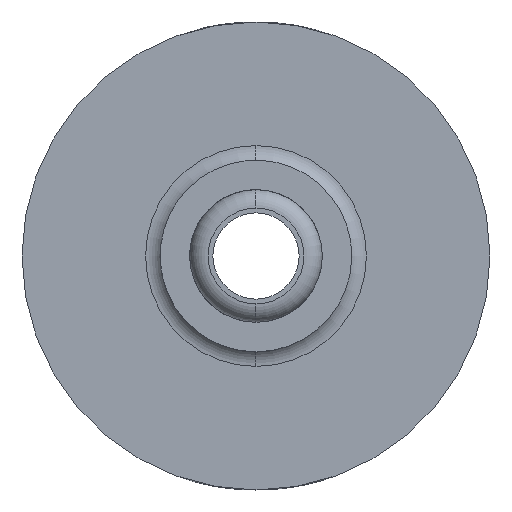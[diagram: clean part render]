
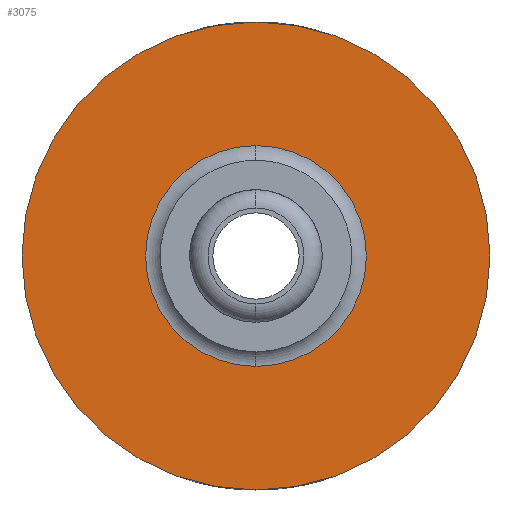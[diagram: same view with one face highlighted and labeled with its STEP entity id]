
A CAD part, left-side view. The second image highlights one B-rep face of the part: STEP entity #3075.
In plain terms, the highlighted planar face has unit normal (-1, 0, 0).
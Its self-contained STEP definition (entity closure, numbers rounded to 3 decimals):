
#61=FACE_BOUND('',#894,.T.);
#70=PLANE('',#3375);
#731=FACE_OUTER_BOUND('',#893,.T.);
#893=EDGE_LOOP('',(#2235,#2236));
#894=EDGE_LOOP('',(#2237,#2238));
#1038=CIRCLE('',#3233,1.498);
#1089=CIRCLE('',#3303,3.175);
#1124=CIRCLE('',#3339,3.175);
#1150=CIRCLE('',#3376,1.498);
#1185=VERTEX_POINT('',#4265);
#1186=VERTEX_POINT('',#4266);
#1287=VERTEX_POINT('',#4708);
#1288=VERTEX_POINT('',#4710);
#1495=EDGE_CURVE('',#1185,#1186,#1038,.T.);
#1602=EDGE_CURVE('',#1288,#1287,#1089,.T.);
#1674=EDGE_CURVE('',#1287,#1288,#1124,.T.);
#1739=EDGE_CURVE('',#1186,#1185,#1150,.T.);
#2235=ORIENTED_EDGE('',*,*,#1602,.T.);
#2236=ORIENTED_EDGE('',*,*,#1674,.T.);
#2237=ORIENTED_EDGE('',*,*,#1739,.T.);
#2238=ORIENTED_EDGE('',*,*,#1495,.T.);
#3075=ADVANCED_FACE('',(#731,#61),#70,.F.);
#3233=AXIS2_PLACEMENT_3D('',#4267,#3507,#3508);
#3303=AXIS2_PLACEMENT_3D('',#4711,#3681,#3682);
#3339=AXIS2_PLACEMENT_3D('',#4946,#3784,#3785);
#3375=AXIS2_PLACEMENT_3D('',#5492,#3869,#3870);
#3376=AXIS2_PLACEMENT_3D('',#5493,#3871,#3872);
#3507=DIRECTION('center_axis',(1.,0.,0.));
#3508=DIRECTION('ref_axis',(0.,0.,
1.));
#3681=DIRECTION('center_axis',(-1.,0.,0.));
#3682=DIRECTION('ref_axis',(0.,0.,1.));
#3784=DIRECTION('center_axis',(-1.,0.,0.));
#3785=DIRECTION('ref_axis',(0.,0.,
-1.));
#3869=DIRECTION('center_axis',(1.,0.,0.));
#3870=DIRECTION('ref_axis',(0.,0.,-1.));
#3871=DIRECTION('center_axis',(1.,0.,0.));
#3872=DIRECTION('ref_axis',(0.,0.,-1.));
#4265=CARTESIAN_POINT('',(-6.125,0.,1.498));
#4266=CARTESIAN_POINT('',(-6.125,0.,-1.498));
#4267=CARTESIAN_POINT('Origin',(-6.125,0.,0.));
#4708=CARTESIAN_POINT('',(-6.125,0.,-3.175));
#4710=CARTESIAN_POINT('',(-6.125,0.,3.175));
#4711=CARTESIAN_POINT('Origin',(-6.125,0.,0.));
#4946=CARTESIAN_POINT('Origin',(-6.125,0.,0.));
#5492=CARTESIAN_POINT('Origin',(-6.125,-3.213,0.));
#5493=CARTESIAN_POINT('Origin',(-6.125,0.,0.));
